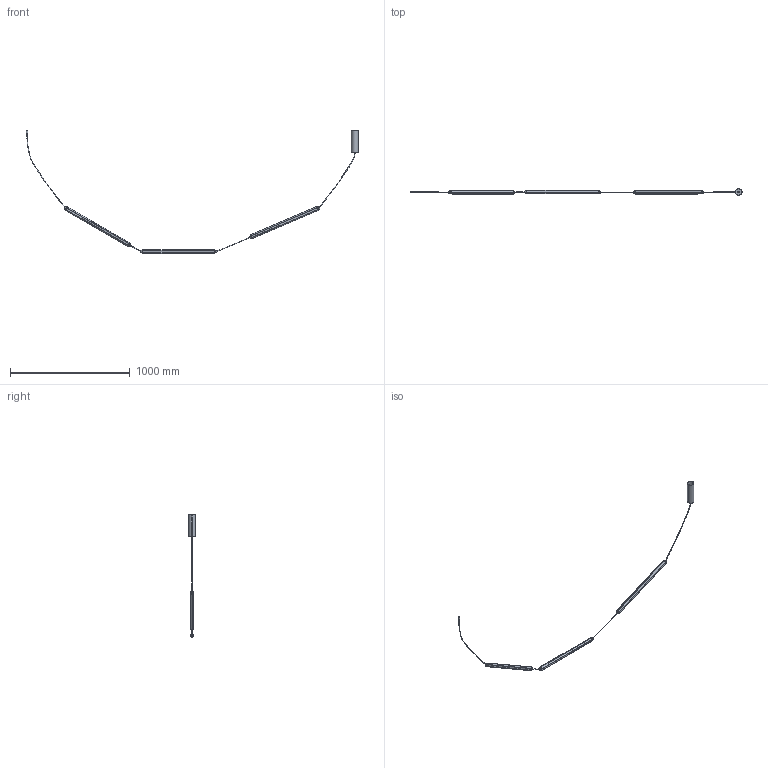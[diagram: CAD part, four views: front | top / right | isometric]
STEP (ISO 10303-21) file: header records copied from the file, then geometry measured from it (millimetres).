
FILE_DESCRIPTION(/* description */ (''),/* implementation_level */ '2;1');
FILE_NAME(/* name */ '64652-111_3d',/* time_stamp */ '2026-05-26T10:51:40+02:00',/* author */ (''),/* organization */ (''),/* preprocessor_version */ 'ST-DEVELOPER v19.2',/* originating_system */ 'Rhino 8.30',/* authorisation */ '');
FILE_SCHEMA (('CONFIG_CONTROL_DESIGN'));
Length unit declared in the file: millimetre
Products named in the file (1): Document
Bounding box: 2768.98 x 55 x 1027.32 mm (x, y, z)
Volume: 717531 mm3; surface area: 387774.5 mm2
Topology: 13 solids, 18 shells, 310 faces, 873 edges, 558 vertices
Faces by surface type: cylinder 177, plane 115, bspline 18
Entity records: 14623 total; most frequent: CARTESIAN_POINT 7419, ORIENTED_EDGE 1710, DIRECTION 924, EDGE_CURVE 861, AXIS2_PLACEMENT_3D 608, VERTEX_POINT 558, B_SPLINE_CURVE_WITH_KNOTS 508, EDGE_LOOP 342
